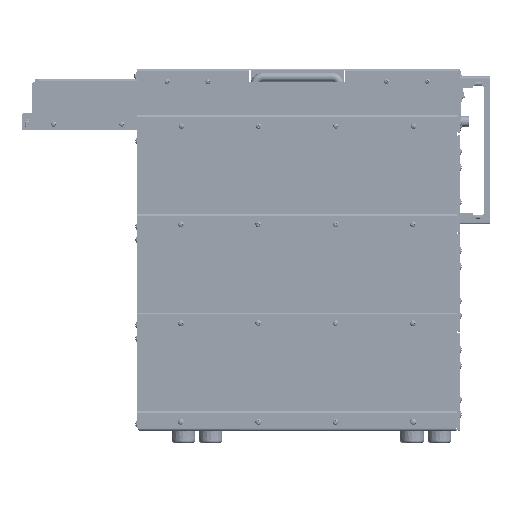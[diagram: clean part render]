
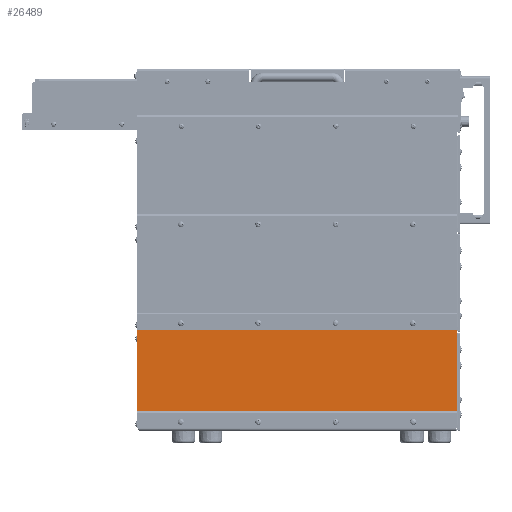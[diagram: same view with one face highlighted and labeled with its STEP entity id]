
A CAD part, left-side view. The second image highlights one B-rep face of the part: STEP entity #26489.
In plain terms, the highlighted planar face has unit normal (-1, 0, 0).
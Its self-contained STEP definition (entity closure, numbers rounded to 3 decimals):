
#26489=ADVANCED_FACE('',(#72940,#72941,#72942,#72943,#72944),#72945,.T.);
#72940=FACE_OUTER_BOUND('',#144299,.T.);
#72941=FACE_BOUND('',#144300,.T.);
#72942=FACE_BOUND('',#144301,.T.);
#72943=FACE_BOUND('',#144302,.T.);
#72944=FACE_BOUND('',#144303,.T.);
#72945=PLANE('',#144304);
#144299=EDGE_LOOP('',(#222176,#222177,#222178,#222179,#222180,#222181,#222182,#222183));
#144300=EDGE_LOOP('',(#222184,#222185));
#144301=EDGE_LOOP('',(#222186,#222187));
#144302=EDGE_LOOP('',(#222188,#222189));
#144303=EDGE_LOOP('',(#222190,#222191));
#144304=AXIS2_PLACEMENT_3D('',#222192,#222193,#222194);
#222176=ORIENTED_EDGE('',*,*,#395128,.F.);
#222177=ORIENTED_EDGE('',*,*,#395136,.T.);
#222178=ORIENTED_EDGE('',*,*,#395147,.F.);
#222179=ORIENTED_EDGE('',*,*,#395123,.F.);
#222180=ORIENTED_EDGE('',*,*,#395171,.T.);
#222181=ORIENTED_EDGE('',*,*,#395189,.F.);
#222182=ORIENTED_EDGE('',*,*,#395190,.F.);
#222183=ORIENTED_EDGE('',*,*,#395130,.F.);
#222184=ORIENTED_EDGE('',*,*,#395106,.T.);
#222185=ORIENTED_EDGE('',*,*,#395173,.T.);
#222186=ORIENTED_EDGE('',*,*,#395101,.T.);
#222187=ORIENTED_EDGE('',*,*,#395175,.T.);
#222188=ORIENTED_EDGE('',*,*,#395096,.T.);
#222189=ORIENTED_EDGE('',*,*,#395177,.T.);
#222190=ORIENTED_EDGE('',*,*,#395091,.T.);
#222191=ORIENTED_EDGE('',*,*,#395179,.T.);
#222192=CARTESIAN_POINT('',(546.234,604.229,-242.652));
#222193=DIRECTION('',(-1.0,0.,0.));
#222194=DIRECTION('',(0.,0.,1.0));
#395091=EDGE_CURVE('',#470879,#470876,#470880,.T.);
#395096=EDGE_CURVE('',#470888,#470885,#470889,.T.);
#395101=EDGE_CURVE('',#470897,#470894,#470898,.T.);
#395106=EDGE_CURVE('',#470906,#470903,#470907,.T.);
#395123=EDGE_CURVE('',#470935,#470931,#470937,.T.);
#395128=EDGE_CURVE('',#470944,#470940,#470946,.T.);
#395130=EDGE_CURVE('',#470940,#470948,#470949,.T.);
#395136=EDGE_CURVE('',#470944,#470956,#470958,.T.);
#395147=EDGE_CURVE('',#470931,#470956,#470971,.T.);
#395171=EDGE_CURVE('',#470935,#471001,#471003,.T.);
#395173=EDGE_CURVE('',#470903,#470906,#471005,.T.);
#395175=EDGE_CURVE('',#470894,#470897,#471007,.T.);
#395177=EDGE_CURVE('',#470885,#470888,#471009,.T.);
#395179=EDGE_CURVE('',#470876,#470879,#471011,.T.);
#395189=EDGE_CURVE('',#471021,#471001,#471022,.T.);
#395190=EDGE_CURVE('',#470948,#471021,#471023,.T.);
#470876=VERTEX_POINT('',#583018);
#470879=VERTEX_POINT('',#583022);
#470880=CIRCLE('',#583023,2.5);
#470885=VERTEX_POINT('',#583029);
#470888=VERTEX_POINT('',#583033);
#470889=CIRCLE('',#583034,2.5);
#470894=VERTEX_POINT('',#583040);
#470897=VERTEX_POINT('',#583044);
#470898=CIRCLE('',#583045,2.5);
#470903=VERTEX_POINT('',#583051);
#470906=VERTEX_POINT('',#583055);
#470907=CIRCLE('',#583056,2.5);
#470931=VERTEX_POINT('',#583085);
#470935=VERTEX_POINT('',#583090);
#470937=CIRCLE('',#583093,1.457);
#470940=VERTEX_POINT('',#583096);
#470944=VERTEX_POINT('',#583101);
#470946=CIRCLE('',#583104,2.538);
#470948=VERTEX_POINT('',#583106);
#470949=CIRCLE('',#583107,2.538);
#470956=VERTEX_POINT('',#583116);
#470958=LINE('',#583119,#583120);
#470971=CIRCLE('',#583136,1.457);
#471001=VERTEX_POINT('',#583175);
#471003=LINE('',#583178,#583179);
#471005=CIRCLE('',#583181,2.5);
#471007=CIRCLE('',#583183,2.5);
#471009=CIRCLE('',#583185,2.5);
#471011=CIRCLE('',#583187,2.5);
#471021=VERTEX_POINT('',#583197);
#471022=LINE('',#583198,#583199);
#471023=LINE('',#583200,#583201);
#583018=CARTESIAN_POINT('',(546.234,974.979,-187.227));
#583022=CARTESIAN_POINT('',(546.234,979.979,-187.227));
#583023=AXIS2_PLACEMENT_3D('',#726687,#726688,#726689);
#583029=CARTESIAN_POINT('',(546.234,870.559,-187.227));
#583033=CARTESIAN_POINT('',(546.234,875.559,-187.227));
#583034=AXIS2_PLACEMENT_3D('',#726695,#726696,#726697);
#583040=CARTESIAN_POINT('',(546.234,766.149,-187.227));
#583044=CARTESIAN_POINT('',(546.234,771.149,-187.227));
#583045=AXIS2_PLACEMENT_3D('',#726703,#726704,#726705);
#583051=CARTESIAN_POINT('',(546.234,661.729,-187.227));
#583055=CARTESIAN_POINT('',(546.234,666.729,-187.227));
#583056=AXIS2_PLACEMENT_3D('',#726711,#726712,#726713);
#583085=CARTESIAN_POINT('',(546.234,1037.053,-179.404));
#583090=CARTESIAN_POINT('',(546.234,1037.479,-180.434));
#583093=AXIS2_PLACEMENT_3D('',#726739,#726740,#726741);
#583096=CARTESIAN_POINT('',(546.234,604.973,-179.721));
#583101=CARTESIAN_POINT('',(546.234,606.767,-178.977));
#583104=AXIS2_PLACEMENT_3D('',#726747,#726748,#726749);
#583106=CARTESIAN_POINT('',(546.234,604.229,-181.515));
#583107=AXIS2_PLACEMENT_3D('',#726750,#726751,#726752);
#583116=CARTESIAN_POINT('',(546.234,1036.023,-178.977));
#583119=CARTESIAN_POINT('',(546.234,604.229,-178.977));
#583120=VECTOR('',#726759,1.0);
#583136=AXIS2_PLACEMENT_3D('',#726778,#726779,#726780);
#583175=CARTESIAN_POINT('',(546.234,1037.479,-306.327));
#583178=CARTESIAN_POINT('',(546.234,1037.479,-178.977));
#583179=VECTOR('',#726815,1.0);
#583181=AXIS2_PLACEMENT_3D('',#726816,#726817,#726818);
#583183=AXIS2_PLACEMENT_3D('',#726819,#726820,#726821);
#583185=AXIS2_PLACEMENT_3D('',#726822,#726823,#726824);
#583187=AXIS2_PLACEMENT_3D('',#726825,#726826,#726827);
#583197=CARTESIAN_POINT('',(546.234,604.229,-306.327));
#583198=CARTESIAN_POINT('',(546.234,604.229,-306.327));
#583199=VECTOR('',#726840,1.0);
#583200=CARTESIAN_POINT('',(546.234,604.229,-178.977));
#583201=VECTOR('',#726841,1.0);
#726687=CARTESIAN_POINT('',(546.234,977.479,-187.227));
#726688=DIRECTION('',(1.0,0.,0.));
#726689=DIRECTION('',(0.,-1.0,0.));
#726695=CARTESIAN_POINT('',(546.234,873.059,-187.227));
#726696=DIRECTION('',(1.0,0.,0.));
#726697=DIRECTION('',(0.,-1.0,0.));
#726703=CARTESIAN_POINT('',(546.234,768.649,-187.227));
#726704=DIRECTION('',(1.0,0.,0.));
#726705=DIRECTION('',(0.,-1.0,0.));
#726711=CARTESIAN_POINT('',(546.234,664.229,-187.227));
#726712=DIRECTION('',(1.0,0.,0.));
#726713=DIRECTION('',(0.,-1.0,0.));
#726739=CARTESIAN_POINT('',(546.234,1036.023,-180.434));
#726740=DIRECTION('',(1.0,0.,0.));
#726741=DIRECTION('',(0.,0.707,0.707));
#726747=CARTESIAN_POINT('',(546.234,606.767,-181.515));
#726748=DIRECTION('',(1.0,0.,0.));
#726749=DIRECTION('',(0.,-0.707,0.707));
#726750=CARTESIAN_POINT('',(546.234,606.767,-181.515));
#726751=DIRECTION('',(1.0,0.,0.));
#726752=DIRECTION('',(0.,-0.707,0.707));
#726759=DIRECTION('',(0.0,1.0,0.0));
#726778=CARTESIAN_POINT('',(546.234,1036.023,-180.434));
#726779=DIRECTION('',(1.0,0.,0.));
#726780=DIRECTION('',(0.,0.707,0.707));
#726815=DIRECTION('',(0.0,0.0,-1.0));
#726816=CARTESIAN_POINT('',(546.234,664.229,-187.227));
#726817=DIRECTION('',(1.0,0.,0.));
#726818=DIRECTION('',(0.,-1.0,0.));
#726819=CARTESIAN_POINT('',(546.234,768.649,-187.227));
#726820=DIRECTION('',(1.0,0.,0.));
#726821=DIRECTION('',(0.,-1.0,0.));
#726822=CARTESIAN_POINT('',(546.234,873.059,-187.227));
#726823=DIRECTION('',(1.0,0.,0.));
#726824=DIRECTION('',(0.,-1.0,0.));
#726825=CARTESIAN_POINT('',(546.234,977.479,-187.227));
#726826=DIRECTION('',(1.0,0.,0.));
#726827=DIRECTION('',(0.,-1.0,0.));
#726840=DIRECTION('',(0.0,1.0,0.0));
#726841=DIRECTION('',(0.0,0.0,-1.0));
